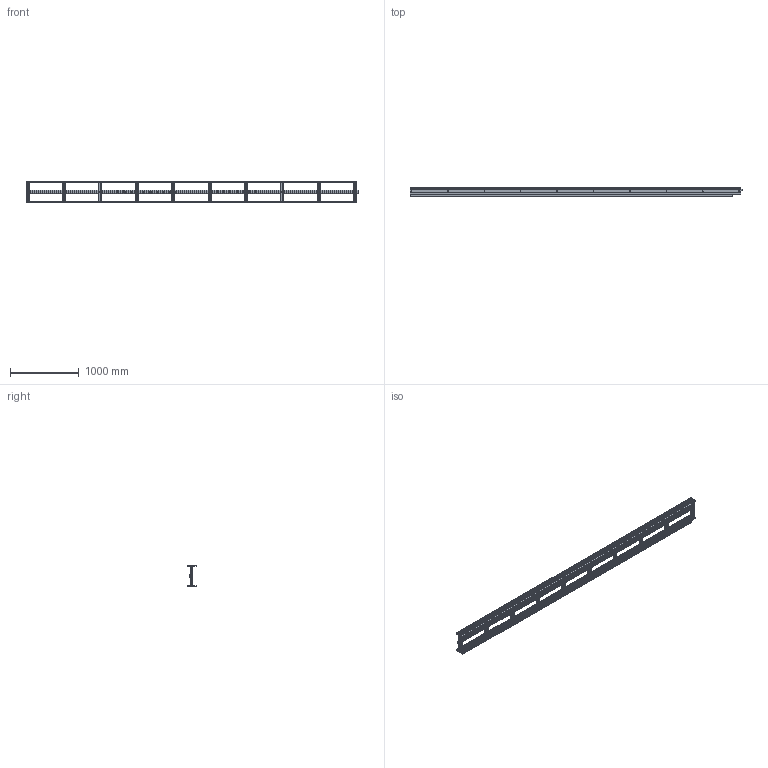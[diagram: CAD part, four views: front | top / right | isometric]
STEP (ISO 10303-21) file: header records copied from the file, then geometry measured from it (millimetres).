
FILE_DESCRIPTION (( 'STEP AP203' ), '1' );
FILE_NAME ('2000.1200.002.STEP', '2015-04-15T14:42:50', ( '' ), ( '' ), 'SwSTEP 2.0', 'SolidWorks 2012', '' );
FILE_SCHEMA (( 'CONFIG_CONTROL_DESIGN' ));
Length unit declared in the file: millimetre
Products named in the file (1): 2000.1200.002
Bounding box: 4839 x 134.24 x 320 mm (x, y, z)
Volume: 12413884.7 mm3; surface area: 9298764.8 mm2
Topology: 19 solids, 19 shells, 1580 faces, 4612 edges, 3032 vertices
Faces by surface type: plane 864, cylinder 664, cone 52
Entity records: 55269 total; most frequent: CARTESIAN_POINT 11805, ORIENTED_EDGE 9224, DIRECTION 8954, EDGE_CURVE 4612, VECTOR 3120, LINE 3120, VERTEX_POINT 3032, AXIS2_PLACEMENT_3D 2917
